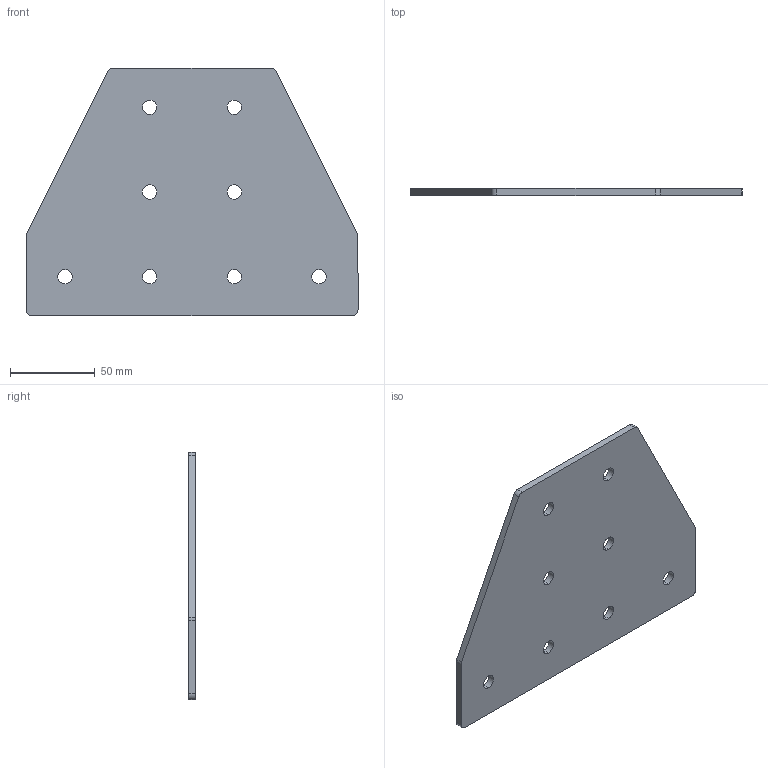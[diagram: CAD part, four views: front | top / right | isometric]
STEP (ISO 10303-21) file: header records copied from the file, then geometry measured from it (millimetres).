
FILE_DESCRIPTION (( 'STEP AP203' ), '1' );
FILE_NAME ('ﾒ-8-ﾓ-50.STEP', '2017-03-22T11:25:39', ( 'RosInstal-MKM' ), ( '' ), 'SwSTEP 2.0', 'SolidWorks 2014', '' );
FILE_SCHEMA (( 'CONFIG_CONTROL_DESIGN' ));
Length unit declared in the file: millimetre
Products named in the file (1): ﾒ-8-ﾓ-50
Bounding box: 196 x 4 x 146 mm (x, y, z)
Volume: 93302.3 mm3; surface area: 49926.1 mm2
Topology: 1 solids, 1 shells, 30 faces, 84 edges, 56 vertices
Faces by surface type: cylinder 22, plane 8
Entity records: 1101 total; most frequent: DIRECTION 190, CARTESIAN_POINT 171, ORIENTED_EDGE 168, EDGE_CURVE 84, AXIS2_PLACEMENT_3D 75, VERTEX_POINT 56, EDGE_LOOP 46, CIRCLE 44
